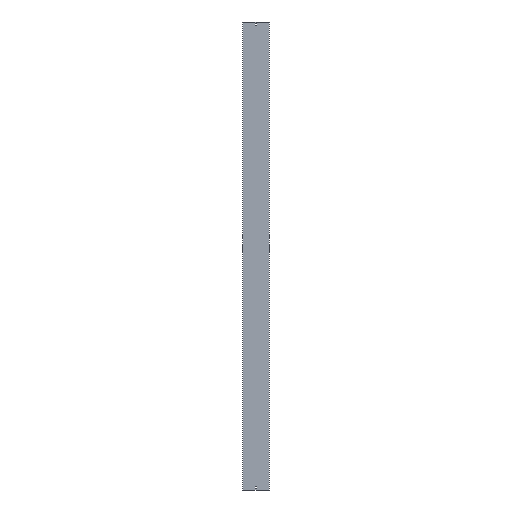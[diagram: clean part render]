
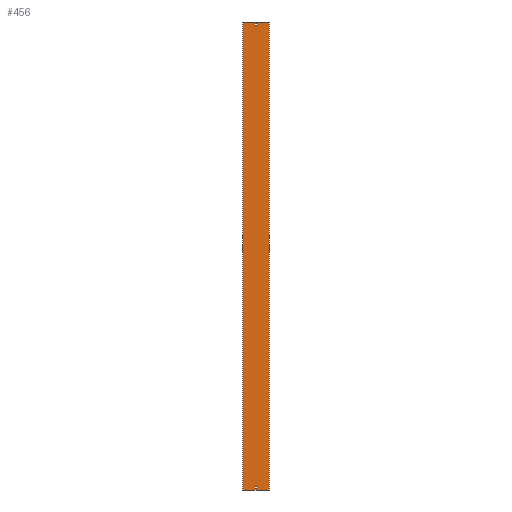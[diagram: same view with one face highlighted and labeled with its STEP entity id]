
A CAD part, front view. The second image highlights one B-rep face of the part: STEP entity #456.
In plain terms, the highlighted planar face has unit normal (0, -1, 0).
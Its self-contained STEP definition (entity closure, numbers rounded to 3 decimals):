
#2 = CARTESIAN_POINT ( 'NONE',  ( -3.25, -1.5, 1500. ) ) ;
#3 = CARTESIAN_POINT ( 'NONE',  ( 85., -1.5, 1500. ) ) ;
#9 = VERTEX_POINT ( 'NONE', #104 ) ;
#16 = DIRECTION ( 'NONE',  ( -1., 0., 0. ) ) ;
#17 = VECTOR ( 'NONE', #274, 1000. ) ;
#21 = LINE ( 'NONE', #557, #565 ) ;
#29 = ORIENTED_EDGE ( 'NONE', *, *, #321, .T. ) ;
#42 = ORIENTED_EDGE ( 'NONE', *, *, #66, .F. ) ;
#48 = CARTESIAN_POINT ( 'NONE',  ( -85., -1.5, -1500. ) ) ;
#55 = VECTOR ( 'NONE', #420, 1000. ) ;
#65 = DIRECTION ( 'NONE',  ( -1., 0., 0. ) ) ;
#66 = EDGE_CURVE ( 'NONE', #423, #584, #295, .T. ) ;
#70 = DIRECTION ( 'NONE',  ( -1., 0., 0. ) ) ;
#83 = CARTESIAN_POINT ( 'NONE',  ( -86.5, -1.5, 1479. ) ) ;
#84 = LINE ( 'NONE', #220, #17 ) ;
#87 = ORIENTED_EDGE ( 'NONE', *, *, #570, .T. ) ;
#88 = AXIS2_PLACEMENT_3D ( 'NONE', #380, #543, #495 ) ;
#98 = ORIENTED_EDGE ( 'NONE', *, *, #243, .T. ) ;
#104 = CARTESIAN_POINT ( 'NONE',  ( 3.25, -1.5, -1488. ) ) ;
#110 = VECTOR ( 'NONE', #464, 1000. ) ;
#116 = FACE_BOUND ( 'NONE', #483, .T. ) ;
#122 = LINE ( 'NONE', #3, #448 ) ;
#130 = DIRECTION ( 'NONE',  ( 0., 0., -1. ) ) ;
#134 = VECTOR ( 'NONE', #507, 1000. ) ;
#137 = LINE ( 'NONE', #410, #110 ) ;
#141 = LINE ( 'NONE', #520, #264 ) ;
#143 = CARTESIAN_POINT ( 'NONE',  ( 3.25, -1.5, -1479. ) ) ;
#146 = EDGE_CURVE ( 'NONE', #529, #423, #122, .T. ) ;
#155 = PLANE ( 'NONE',  #88 ) ;
#162 = EDGE_CURVE ( 'NONE', #287, #9, #165, .T. ) ;
#163 = ORIENTED_EDGE ( 'NONE', *, *, #210, .F. ) ;
#165 = LINE ( 'NONE', #302, #248 ) ;
#167 = CARTESIAN_POINT ( 'NONE',  ( -3.25, -1.5, 1488. ) ) ;
#168 = DIRECTION ( 'NONE',  ( 0., 0., -1. ) ) ;
#178 = ORIENTED_EDGE ( 'NONE', *, *, #292, .F. ) ;
#184 = ORIENTED_EDGE ( 'NONE', *, *, #291, .T. ) ;
#196 = CARTESIAN_POINT ( 'NONE',  ( -3.25, -1.5, 1479. ) ) ;
#199 = ORIENTED_EDGE ( 'NONE', *, *, #162, .T. ) ;
#201 = EDGE_CURVE ( 'NONE', #388, #287, #308, .T. ) ;
#204 = FACE_BOUND ( 'NONE', #211, .T. ) ;
#209 = CARTESIAN_POINT ( 'NONE',  ( 85., -1.5, -1500. ) ) ;
#210 = EDGE_CURVE ( 'NONE', #269, #223, #549, .T. ) ;
#211 = EDGE_LOOP ( 'NONE', ( #588, #178, #271, #163 ) ) ;
#217 = CARTESIAN_POINT ( 'NONE',  ( 3.25, -1.5, 1479. ) ) ;
#220 = CARTESIAN_POINT ( 'NONE',  ( -85., -1.5, 1500. ) ) ;
#223 = VERTEX_POINT ( 'NONE', #217 ) ;
#231 = VECTOR ( 'NONE', #65, 1000. ) ;
#232 = LINE ( 'NONE', #2, #134 ) ;
#237 = CARTESIAN_POINT ( 'NONE',  ( 3.25, -1.5, 1488. ) ) ;
#240 = VERTEX_POINT ( 'NONE', #237 ) ;
#243 = EDGE_CURVE ( 'NONE', #529, #473, #21, .T. ) ;
#246 = ORIENTED_EDGE ( 'NONE', *, *, #146, .F. ) ;
#248 = VECTOR ( 'NONE', #168, 1000. ) ;
#264 = VECTOR ( 'NONE', #281, 1000. ) ;
#269 = VERTEX_POINT ( 'NONE', #196 ) ;
#271 = ORIENTED_EDGE ( 'NONE', *, *, #564, .F. ) ;
#274 = DIRECTION ( 'NONE',  ( 0., 0., -1. ) ) ;
#281 = DIRECTION ( 'NONE',  ( 0., 0., 1. ) ) ;
#284 = VECTOR ( 'NONE', #70, 1000. ) ;
#287 = VERTEX_POINT ( 'NONE', #143 ) ;
#291 = EDGE_CURVE ( 'NONE', #430, #388, #141, .T. ) ;
#292 = EDGE_CURVE ( 'NONE', #240, #522, #369, .T. ) ;
#295 = LINE ( 'NONE', #479, #284 ) ;
#302 = CARTESIAN_POINT ( 'NONE',  ( 3.25, -1.5, 1500. ) ) ;
#308 = LINE ( 'NONE', #498, #542 ) ;
#313 = DIRECTION ( 'NONE',  ( 1., 0., 0. ) ) ;
#321 = EDGE_CURVE ( 'NONE', #9, #430, #414, .T. ) ;
#325 = CARTESIAN_POINT ( 'NONE',  ( -86.5, -1.5, 1488. ) ) ;
#344 = CARTESIAN_POINT ( 'NONE',  ( -3.25, -1.5, -1479. ) ) ;
#348 = VECTOR ( 'NONE', #505, 1000. ) ;
#369 = LINE ( 'NONE', #325, #55 ) ;
#380 = CARTESIAN_POINT ( 'NONE',  ( -86.5, -1.5, 1500. ) ) ;
#388 = VERTEX_POINT ( 'NONE', #344 ) ;
#403 = CARTESIAN_POINT ( 'NONE',  ( 85., -1.5, 1500. ) ) ;
#410 = CARTESIAN_POINT ( 'NONE',  ( 3.25, -1.5, 1500. ) ) ;
#414 = LINE ( 'NONE', #574, #231 ) ;
#420 = DIRECTION ( 'NONE',  ( -1., 0., 0. ) ) ;
#423 = VERTEX_POINT ( 'NONE', #209 ) ;
#430 = VERTEX_POINT ( 'NONE', #535 ) ;
#448 = VECTOR ( 'NONE', #130, 1000. ) ;
#456 = ADVANCED_FACE ( 'NONE', ( #204, #583, #116 ), #155, .T. ) ;
#464 = DIRECTION ( 'NONE',  ( 0., 0., 1. ) ) ;
#473 = VERTEX_POINT ( 'NONE', #503 ) ;
#479 = CARTESIAN_POINT ( 'NONE',  ( -86.5, -1.5, -1500. ) ) ;
#483 = EDGE_LOOP ( 'NONE', ( #29, #184, #494, #199 ) ) ;
#494 = ORIENTED_EDGE ( 'NONE', *, *, #201, .T. ) ;
#495 = DIRECTION ( 'NONE',  ( 0., 0., -1. ) ) ;
#498 = CARTESIAN_POINT ( 'NONE',  ( -86.5, -1.5, -1479. ) ) ;
#503 = CARTESIAN_POINT ( 'NONE',  ( -85., -1.5, 1500. ) ) ;
#505 = DIRECTION ( 'NONE',  ( 1., 0., 0. ) ) ;
#507 = DIRECTION ( 'NONE',  ( 0., 0., -1. ) ) ;
#519 = EDGE_CURVE ( 'NONE', #522, #269, #232, .T. ) ;
#520 = CARTESIAN_POINT ( 'NONE',  ( -3.25, -1.5, 1500. ) ) ;
#522 = VERTEX_POINT ( 'NONE', #167 ) ;
#529 = VERTEX_POINT ( 'NONE', #403 ) ;
#535 = CARTESIAN_POINT ( 'NONE',  ( -3.25, -1.5, -1488. ) ) ;
#542 = VECTOR ( 'NONE', #313, 1000. ) ;
#543 = DIRECTION ( 'NONE',  ( 0., -1., 0. ) ) ;
#549 = LINE ( 'NONE', #83, #348 ) ;
#557 = CARTESIAN_POINT ( 'NONE',  ( -86.5, -1.5, 1500. ) ) ;
#564 = EDGE_CURVE ( 'NONE', #223, #240, #137, .T. ) ;
#565 = VECTOR ( 'NONE', #16, 1000. ) ;
#570 = EDGE_CURVE ( 'NONE', #473, #584, #84, .T. ) ;
#573 = EDGE_LOOP ( 'NONE', ( #42, #246, #98, #87 ) ) ;
#574 = CARTESIAN_POINT ( 'NONE',  ( -86.5, -1.5, -1488. ) ) ;
#583 = FACE_OUTER_BOUND ( 'NONE', #573, .T. ) ;
#584 = VERTEX_POINT ( 'NONE', #48 ) ;
#588 = ORIENTED_EDGE ( 'NONE', *, *, #519, .F. ) ;
